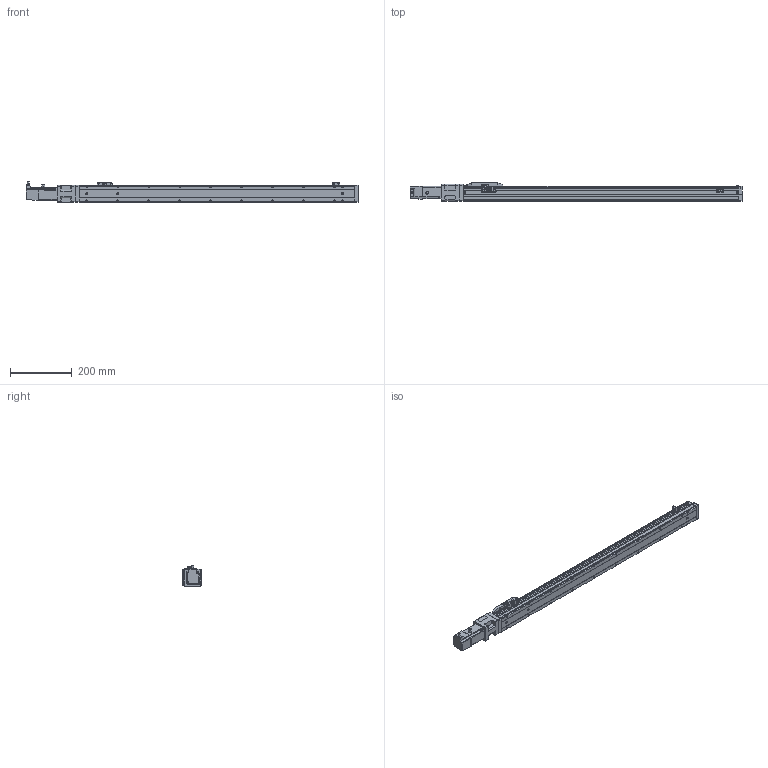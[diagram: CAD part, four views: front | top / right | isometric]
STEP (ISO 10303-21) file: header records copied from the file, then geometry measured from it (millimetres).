
FILE_DESCRIPTION (( 'STEP AP203' ), '1' );
FILE_NAME ('CTH5-L10-S750-BC-C10(¼ò).STEP', '2023-02-04T02:06:32', ( '' ), ( '' ), 'SwSTEP 2.0', 'SolidWorks 2018', '' );
FILE_SCHEMA (( 'CONFIG_CONTROL_DESIGN' ));
Length unit declared in the file: millimetre
Products named in the file (21): T10-p1; CTH5耜晚蹟隊-1; 100W萇儂; 内六角圆柱头螺钉M3-2; CTH5綴耜啣; CTH5-BC-03; 葩璃 蚾饜极13^CTH8-L10-S50-BM-C40(潠)1; CTH5ヶ耜啣(潠); CTH5賑怢; CTH5萇儂釱欶; hex nuts, style 1-grades ab gb_GB_FASTENER_NUT_SNAB1 M3-N; PM-Y45; M3; CTH嫖萇羲壽假蚾啣; CTH5耜晚蹟隊; 嫖萇羲壽郪磁1; CTH5菁釱-L890; CTH5萇儂釱; M3｡｣; CTH5覜茼え; CTH5-L10-S750-BC-C10(潠)
Assembly tree (37 placements, depth 3):
  CTH5-L10-S750-BC-C10(潠)
    CTH5綴耜啣
    CTH5賑怢
    CTH5ヶ耜啣(潠)
    CTH5菁釱-L890
    CTH5耜晚蹟隊  x2
    CTH5萇儂釱
      CTH5-BC-03
    CTH5萇儂釱欶
    100W萇儂
      T10-p1
    嫖萇羲壽郪磁1  x2
      CTH嫖萇羲壽假蚾啣
      PM-Y45
      M3｡｣
      内六角圆柱头螺钉M3-2
      hex nuts, style 1-grades ab gb_GB_FASTENER_NUT_SNAB1 M3-N
    CTH5覜茼え
    葩璃 蚾饜极13^CTH8-L10-S50-BM-C40(潠)1
      CTH嫖萇羲壽假蚾啣
      PM-Y45
      内六角圆柱头螺钉M3-2  x2
      M3｡｣  x2
      hex nuts, style 1-grades ab gb_GB_FASTENER_NUT_SNAB1 M3-N  x2
    M3  x2
    CTH5耜晚蹟隊-1  x4
Bounding box: 1071.1 x 60 x 65.7 mm (x, y, z)
Volume: 2232472.3 mm3; surface area: 309901.7 mm2
Topology: 40 solids, 40 shells, 1563 faces, 3914 edges, 2518 vertices
Faces by surface type: plane 848, cylinder 454, cone 199, torus 44, bspline 18
Entity records: 35451 total; most frequent: CARTESIAN_POINT 6512, DIRECTION 5630, ORIENTED_EDGE 5376, EDGE_CURVE 2688, AXIS2_PLACEMENT_3D 1955, VERTEX_POINT 1724, VECTOR 1720, LINE 1720
